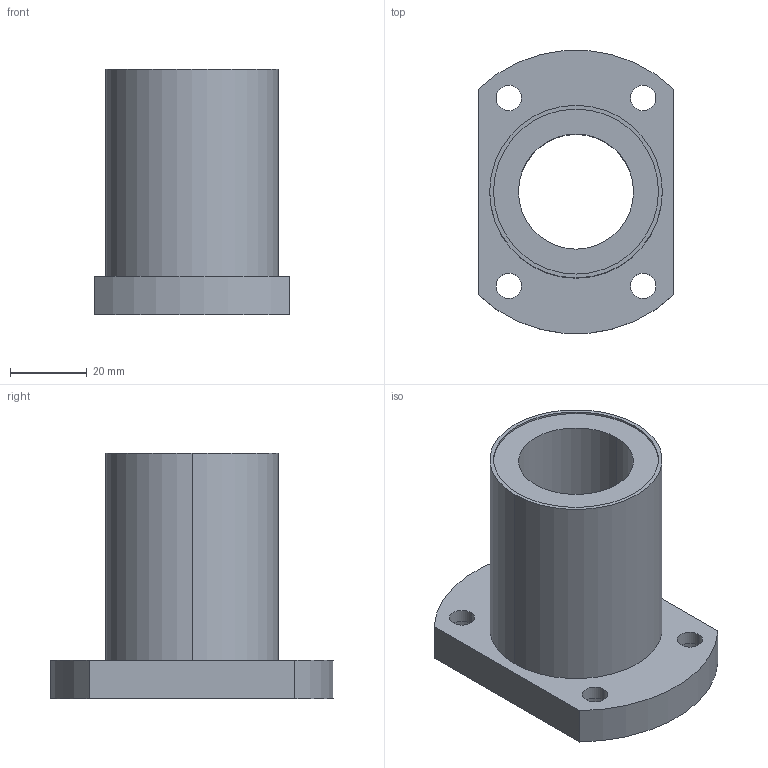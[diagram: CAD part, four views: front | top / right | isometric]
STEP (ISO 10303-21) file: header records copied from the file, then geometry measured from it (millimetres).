
FILE_DESCRIPTION((''),'2;1');
FILE_NAME('C:\Documents and Settings\ｿﾀﾀ蠑ｷ1\ｹﾙﾅﾁ ﾈｭｸ饅\ｺﾎﾇｰﾆﾄﾀﾏ\ﾁｦﾇｰ\LMH__UU\LMH30UU.stp','2005-06-15T10:40:59',('ｿﾀﾀ蠑ｷ1'),(''),'Autodesk Inventor 9','Autodesk Inventor 9','');
FILE_SCHEMA(('AUTOMOTIVE_DESIGN { 1 0 10303 214 1 1 1 1 }'));
Length unit declared in the file: millimetre
Products named in the file (1): LMH__
Bounding box: 51 x 73.74 x 64 mm (x, y, z)
Volume: 70999.2 mm3; surface area: 22327.8 mm2
Topology: 1 solids, 1 shells, 40 faces, 90 edges, 60 vertices
Faces by surface type: cylinder 28, plane 12
Entity records: 1193 total; most frequent: DIRECTION 228, CARTESIAN_POINT 191, ORIENTED_EDGE 180, AXIS2_PLACEMENT_3D 97, EDGE_CURVE 90, VERTEX_POINT 60, EDGE_LOOP 58, CIRCLE 56
